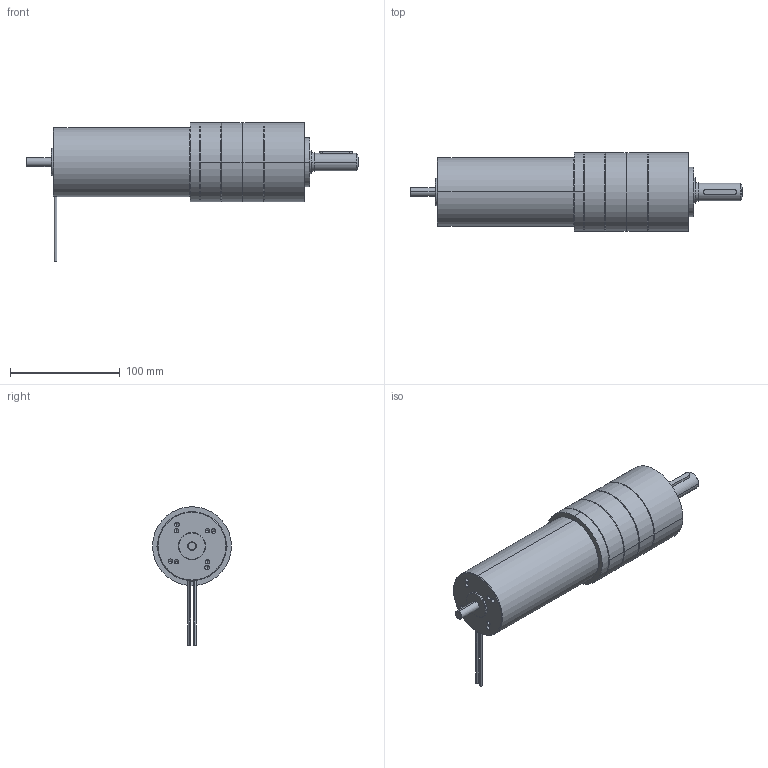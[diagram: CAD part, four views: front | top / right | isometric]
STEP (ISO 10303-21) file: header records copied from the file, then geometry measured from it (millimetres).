
FILE_DESCRIPTION (( 'STEP AP214' ), '1' );
FILE_NAME ('1-17-063-4xx_PM72_3st.STEP', '2020-11-23T09:27:02', ( '' ), ( '' ), 'SwSTEP 2.0', 'SolidWorks 2019', '' );
FILE_SCHEMA (( 'AUTOMOTIVE_DESIGN' ));
Length unit declared in the file: millimetre
Products named in the file (4): Motor bulher 1.17.063.402 ; 1-17-063-4xx_PM72_3st; 7200738_Part; PM72-3etages
Assembly tree (3 placements, depth 2):
  1-17-063-4xx_PM72_3st
    Motor bulher 1.17.063.402 
    7200738_Part
    PM72-3etages
Bounding box: 303.2 x 72 x 126.55 mm (x, y, z)
Volume: 432736.3 mm3; surface area: 175437.2 mm2
Topology: 2 solids, 39 shells, 1254 faces, 3298 edges, 2122 vertices
Faces by surface type: cylinder 618, plane 445, cone 133, torus 58
Entity records: 54292 total; most frequent: CARTESIAN_POINT 8543, DIRECTION 7169, ORIENTED_EDGE 6476, EDGE_CURVE 3256, AXIS2_PLACEMENT_3D 2696, VERTEX_POINT 2122, VECTOR 1777, LINE 1777
